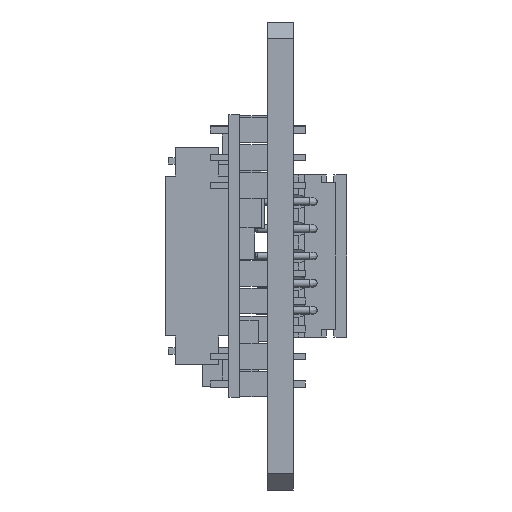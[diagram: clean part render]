
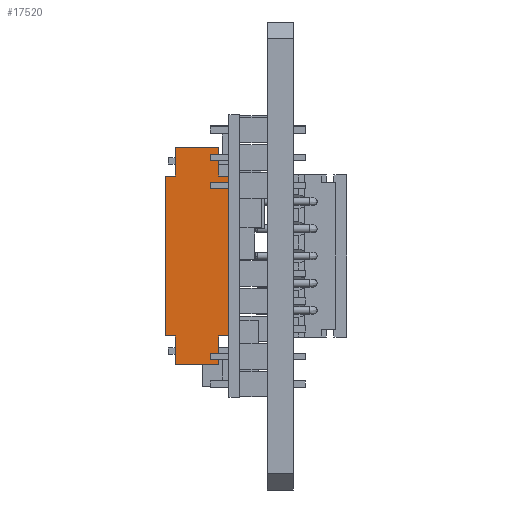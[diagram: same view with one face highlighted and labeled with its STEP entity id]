
A CAD part, left-side view. The second image highlights one B-rep face of the part: STEP entity #17520.
In plain terms, the highlighted planar face has unit normal (-1, 0, 0).
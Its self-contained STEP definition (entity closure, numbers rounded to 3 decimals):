
#959 = LINE ( 'NONE', #968, #8758 ) ;
#968 = CARTESIAN_POINT ( 'NONE',  ( -19.197, 11.79, 7.35 ) ) ;
#970 = DIRECTION ( 'NONE',  ( 0., -1., 0. ) ) ;
#976 = LINE ( 'NONE', #978, #8753 ) ;
#978 = CARTESIAN_POINT ( 'NONE',  ( -19.197, 11.79, -7.35 ) ) ;
#979 = DIRECTION ( 'NONE',  ( 0., -1., 0. ) ) ;
#1027 = LINE ( 'NONE', #1028, #8806 ) ;
#1028 = CARTESIAN_POINT ( 'NONE',  ( -19.197, 10.865, -10. ) ) ;
#1029 = DIRECTION ( 'NONE',  ( 0., 0., 1. ) ) ;
#1063 = LINE ( 'NONE', #1064, #8793 ) ;
#1064 = CARTESIAN_POINT ( 'NONE',  ( -19.197, 11.79, -7.35 ) ) ;
#1065 = DIRECTION ( 'NONE',  ( 0., -1., 0. ) ) ;
#1084 = LINE ( 'NONE', #1085, #21364 ) ;
#1085 = CARTESIAN_POINT ( 'NONE',  ( -19.197, 6.865, -10. ) ) ;
#1086 = DIRECTION ( 'NONE',  ( 0., 0., 1. ) ) ;
#2357 = CARTESIAN_POINT ( 'NONE',  ( -19.197, 6.865, 7.35 ) ) ;
#2358 = CARTESIAN_POINT ( 'NONE',  ( -19.197, 6.865, 10. ) ) ;
#2362 = CARTESIAN_POINT ( 'NONE',  ( -19.197, 11.79, -7.35 ) ) ;
#2379 = CARTESIAN_POINT ( 'NONE',  ( -19.197, 11.79, 7.35 ) ) ;
#2478 = CARTESIAN_POINT ( 'NONE',  ( -19.197, 10.865, 7.35 ) ) ;
#2480 = CARTESIAN_POINT ( 'NONE',  ( -19.197, 10.865, 10. ) ) ;
#3583 = CARTESIAN_POINT ( 'NONE',  ( -19.197, 11.79, -7.35 ) ) ;
#3591 = FACE_OUTER_BOUND ( 'NONE', #12331, .T. ) ;
#3592 = PLANE ( 'NONE',  #8265 ) ;
#3594 = DIRECTION ( 'NONE',  ( 1., 0., 0. ) ) ;
#3595 = DIRECTION ( 'NONE',  ( 0., 0., -1. ) ) ;
#4458 = CARTESIAN_POINT ( 'NONE',  ( -19.197, 10.865, -10. ) ) ;
#8265 = AXIS2_PLACEMENT_3D ( 'NONE', #3583, #3594, #3595 ) ;
#8753 = VECTOR ( 'NONE', #979, 1000. ) ;
#8758 = VECTOR ( 'NONE', #970, 1000. ) ;
#8793 = VECTOR ( 'NONE', #1065, 1000. ) ;
#8806 = VECTOR ( 'NONE', #1029, 1000. ) ;
#8900 = VECTOR ( 'NONE', #12889, 1000. ) ;
#9613 = EDGE_CURVE ( 'NONE', #12103, #16483, #959, .T. ) ;
#9616 = EDGE_CURVE ( 'NONE', #11817, #10158, #976, .T. ) ;
#9633 = EDGE_CURVE ( 'NONE', #18607, #11813, #1027, .T. ) ;
#9645 = EDGE_CURVE ( 'NONE', #12086, #11813, #1063, .T. ) ;
#9652 = EDGE_CURVE ( 'NONE', #12081, #12082, #1084, .T. ) ;
#9747 = EDGE_CURVE ( 'NONE', #16483, #16332, #12587, .T. ) ;
#9847 = EDGE_CURVE ( 'NONE', #11804, #11817, #12887, .T. ) ;
#10158 = VERTEX_POINT ( 'NONE', #13089 ) ;
#10167 = VERTEX_POINT ( 'NONE', #13098 ) ;
#11528 = ORIENTED_EDGE ( 'NONE', *, *, #9652, .T. ) ;
#11529 = ORIENTED_EDGE ( 'NONE', *, *, #22276, .F. ) ;
#11530 = ORIENTED_EDGE ( 'NONE', *, *, #9747, .F. ) ;
#11531 = ORIENTED_EDGE ( 'NONE', *, *, #22194, .T. ) ;
#11532 = ORIENTED_EDGE ( 'NONE', *, *, #9633, .F. ) ;
#11533 = ORIENTED_EDGE ( 'NONE', *, *, #9645, .T. ) ;
#11534 = ORIENTED_EDGE ( 'NONE', *, *, #9613, .F. ) ;
#11535 = ORIENTED_EDGE ( 'NONE', *, *, #22086, .F. ) ;
#11536 = ORIENTED_EDGE ( 'NONE', *, *, #9616, .T. ) ;
#11537 = ORIENTED_EDGE ( 'NONE', *, *, #9847, .T. ) ;
#11539 = ORIENTED_EDGE ( 'NONE', *, *, #19280, .T. ) ;
#11546 = ORIENTED_EDGE ( 'NONE', *, *, #21958, .F. ) ;
#11804 = VERTEX_POINT ( 'NONE', #13393 ) ;
#11813 = VERTEX_POINT ( 'NONE', #13399 ) ;
#11817 = VERTEX_POINT ( 'NONE', #13403 ) ;
#12081 = VERTEX_POINT ( 'NONE', #2357 ) ;
#12082 = VERTEX_POINT ( 'NONE', #2358 ) ;
#12086 = VERTEX_POINT ( 'NONE', #2362 ) ;
#12103 = VERTEX_POINT ( 'NONE', #2379 ) ;
#12331 = EDGE_LOOP ( 'NONE', ( #11546, #11528, #11529, #11530, #11534, #11535, #11533, #11532, #11531, #11537, #11536, #11539 ) ) ;
#12587 = LINE ( 'NONE', #12588, #17024 ) ;
#12588 = CARTESIAN_POINT ( 'NONE',  ( -19.197, 10.865, -10. ) ) ;
#12589 = DIRECTION ( 'NONE',  ( 0., 0., 1. ) ) ;
#12887 = LINE ( 'NONE', #12888, #8900 ) ;
#12888 = CARTESIAN_POINT ( 'NONE',  ( -19.197, 6.865, -10. ) ) ;
#12889 = DIRECTION ( 'NONE',  ( 0., 0., 1. ) ) ;
#13089 = CARTESIAN_POINT ( 'NONE',  ( -19.197, 5.94, -7.35 ) ) ;
#13098 = CARTESIAN_POINT ( 'NONE',  ( -19.197, 5.94, 7.35 ) ) ;
#13393 = CARTESIAN_POINT ( 'NONE',  ( -19.197, 6.865, -10. ) ) ;
#13399 = CARTESIAN_POINT ( 'NONE',  ( -19.197, 10.865, -7.35 ) ) ;
#13403 = CARTESIAN_POINT ( 'NONE',  ( -19.197, 6.865, -7.35 ) ) ;
#16332 = VERTEX_POINT ( 'NONE', #2480 ) ;
#16483 = VERTEX_POINT ( 'NONE', #2478 ) ;
#17024 = VECTOR ( 'NONE', #12589, 1000. ) ;
#17520 = ADVANCED_FACE ( 'NONE', ( #3591 ), #3592, .F. ) ;
#17764 = VECTOR ( 'NONE', #21456, 1000. ) ;
#17982 = VECTOR ( 'NONE', #20315, 1000. ) ;
#18053 = VECTOR ( 'NONE', #20498, 1000. ) ;
#18103 = VECTOR ( 'NONE', #20651, 1000. ) ;
#18141 = VECTOR ( 'NONE', #20767, 1000. ) ;
#18607 = VERTEX_POINT ( 'NONE', #4458 ) ;
#19280 = EDGE_CURVE ( 'NONE', #10158, #10167, #21454, .T. ) ;
#20270 = LINE ( 'NONE', #20314, #17982 ) ;
#20314 = CARTESIAN_POINT ( 'NONE',  ( -19.197, 11.79, 7.35 ) ) ;
#20315 = DIRECTION ( 'NONE',  ( 0., -1., 0. ) ) ;
#20496 = LINE ( 'NONE', #20497, #18053 ) ;
#20497 = CARTESIAN_POINT ( 'NONE',  ( -19.197, 11.79, -7.35 ) ) ;
#20498 = DIRECTION ( 'NONE',  ( 0., 0., 1. ) ) ;
#20614 = LINE ( 'NONE', #20650, #18103 ) ;
#20650 = CARTESIAN_POINT ( 'NONE',  ( -19.197, 10.865, -10. ) ) ;
#20651 = DIRECTION ( 'NONE',  ( 0., -1., 0. ) ) ;
#20728 = LINE ( 'NONE', #20766, #18141 ) ;
#20766 = CARTESIAN_POINT ( 'NONE',  ( -19.197, 10.865, 10. ) ) ;
#20767 = DIRECTION ( 'NONE',  ( 0., -1., 0. ) ) ;
#21364 = VECTOR ( 'NONE', #1086, 1000. ) ;
#21454 = LINE ( 'NONE', #21455, #17764 ) ;
#21455 = CARTESIAN_POINT ( 'NONE',  ( -19.197, 5.94, -7.35 ) ) ;
#21456 = DIRECTION ( 'NONE',  ( 0., 0., 1. ) ) ;
#21958 = EDGE_CURVE ( 'NONE', #12081, #10167, #20270, .T. ) ;
#22086 = EDGE_CURVE ( 'NONE', #12086, #12103, #20496, .T. ) ;
#22194 = EDGE_CURVE ( 'NONE', #18607, #11804, #20614, .T. ) ;
#22276 = EDGE_CURVE ( 'NONE', #16332, #12082, #20728, .T. ) ;
